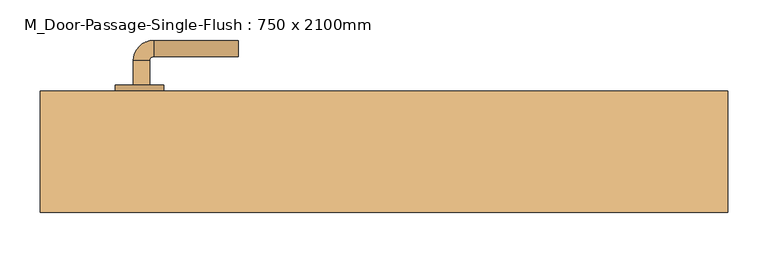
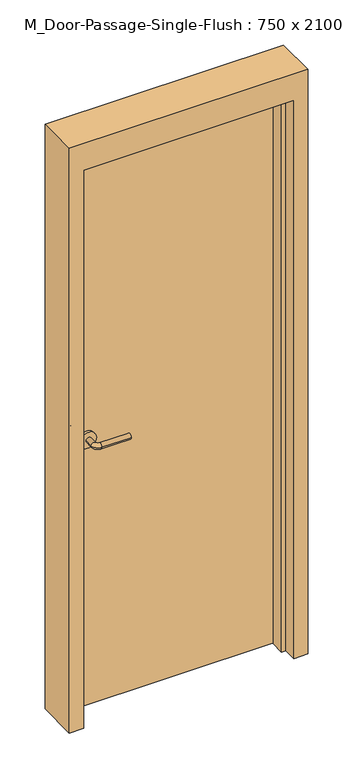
"""IFC4 building model written with IfcOpenShell, lengths in millimetres: door geometry, M_Door-Passage-Single-Flush : 750 x 2100mm."""

from ifc_helpers import new_model, si_unit, point, frame, frame_2d, origin, origin_with_axes, place, context, project, spatial, polyline, circle_curve, ellipse_curve, trimmed, segment, composite_curve, outline, extrude, faceted_brep, source, transform, mapped, element, save
from ifc_brep_helpers import plane_surface, cylinder_surface, revolved_surface, advanced_brep


def m_door_passage_single_flush_750_x_2100mm_cfc78163(model_context):
    return source(origin(), model_context, "Body", "SolidModel", [
        advanced_brep(
        [(-309.990625, -26.65, 1000.0), (-289.990625, -26.65, 1000.0), (-289.990625, -56.65, 1000.0), (-309.990625, -56.65, 1000.0), (-284.990625, -61.65, 1000.0), (-284.990625, -81.65, 1000.0), (-179.990625, -81.65, 1000.0), (-179.990625, -61.65, 1000.0)],
        [
            (0, 1, circle_curve(frame((-299.990625, -26.65, 1000.0), z_axis=(0.0, 1.0, 0.0), x_axis=(1.0, 0.0, 0.0)), 10.0)),
            (1, 0, circle_curve(frame((-299.990625, -26.65, 1000.0), z_axis=(0.0, 1.0, 0.0), x_axis=(1.0, 0.0, 0.0)), 10.0)),
            (1, 2),
            (2, 3, circle_curve(frame((-299.990625, -56.65, 1000.0), z_axis=(0.0, 1.0, 0.0), x_axis=(1.0, 0.0, 0.0)), 10.0)),
            (3, 0),
            (3, 2, circle_curve(frame((-299.990625, -56.65, 1000.0), z_axis=(0.0, 1.0, 0.0), x_axis=(1.0, 0.0, 0.0)), 10.0)),
            (4, 5, circle_curve(frame((-284.990625, -71.65, 1000.0), z_axis=(-1.0, 0.0, 0.0), x_axis=(0.0, 1.0, 0.0)), 10.0)),
            (5, 3, circle_curve(frame((-284.990625, -56.65, 1000.0), z_axis=(0.0, 0.0, -1.0), x_axis=(-1.0, 0.0, 0.0)), 25.0)),
            (2, 4, circle_curve(frame((-284.990625, -56.65, 1000.0), z_axis=(0.0, 0.0, 1.0), x_axis=(-1.0, 0.0, 0.0)), 5.0)),
            (5, 4, circle_curve(frame((-284.990625, -71.65, 1000.0), z_axis=(-1.0, 0.0, 0.0), x_axis=(0.0, 1.0, 0.0)), 10.0)),
            (6, 7, circle_curve(frame((-179.990625, -71.65, 1000.0), z_axis=(1.0, 0.0, 0.0), x_axis=(0.0, 1.0, 0.0)), 10.0)),
            (7, 6, circle_curve(frame((-179.990625, -71.65, 1000.0), z_axis=(1.0, 0.0, 0.0), x_axis=(0.0, 1.0, 0.0)), 10.0)),
            (4, 7),
            (6, 5),
        ],
        [
            plane_surface(frame((-299.990625, -26.65, 1000.0), z_axis=(0.0, 1.0, 0.0), x_axis=(0.0, 0.0, 1.0))),
            cylinder_surface(frame((-299.990625, -26.65, 1000.0), z_axis=(0.0, 1.0, 0.0), x_axis=(1.0, 0.0, 0.0)), 10.0),
            revolved_surface(trimmed(ellipse_curve(frame((-299.990625, -56.65, 1000.0), z_axis=(0.0, -1.0, 0.0), x_axis=(1.0, 0.0, 0.0)), 10.0, 10.0), [point((-309.990625, -56.65, 1000.0))], [point((-289.990625, -56.65, 1000.0))], True, "CARTESIAN"), (-284.990625, -56.65, 1000.0), (0.0, 0.0, -1.0)),
            revolved_surface(trimmed(ellipse_curve(frame((-299.990625, -56.65, 1000.0), z_axis=(0.0, -1.0, 0.0), x_axis=(1.0, 0.0, 0.0)), 10.0, 10.0), [point((-289.990625, -56.65, 1000.0))], [point((-309.990625, -56.65, 1000.0))], True, "CARTESIAN"), (-284.990625, -56.65, 1000.0), (0.0, 0.0, -1.0)),
            plane_surface(frame((-179.990625, -71.65, 1000.0), z_axis=(1.0, 0.0, 0.0), x_axis=(0.0, 0.0, 1.0))),
            cylinder_surface(frame((-284.990625, -71.65, 1000.0), z_axis=(-1.0, 0.0, 0.0), x_axis=(0.0, 1.0, 0.0)), 10.0),
        ],
        [
            (0, [[1, 2]]),
            (1, [[3, 4, 5, -2]]),
            (1, [[-5, 6, -3, -1]]),
            (2, [[7, 8, -4, 9]]),
            (3, [[10, -9, -6, -8]]),
            (4, [[11, 12]]),
            (5, [[13, -11, 14, -7]]),
            (5, [[-14, -12, -13, -10]]),
        ],
    ),
        extrude(outline(composite_curve([segment(trimmed(circle_curve(frame_2d((1000.0, -302.490625)), 30.0), [point((1000.0, -332.490625))], [point((1000.0, -272.490625))], False, "CARTESIAN"), True, "CONTINUOUS"), segment(trimmed(circle_curve(frame_2d((1000.0, -302.490625)), 30.0), [point((1000.0, -272.490625))], [point((1000.0, -332.490625))], False, "CARTESIAN"), True, "CONTINUOUS")], self_intersect=False)), frame((0.0, -26.65, 0.0), z_axis=(0.0, 1.0, 0.0), x_axis=(0.0, 0.0, 1.0)), (0.0, 0.0, 1.0), 8.0),
        advanced_brep(
        [(-309.990625, 34.35, 1000.0), (-289.990625, 34.35, 1000.0), (-309.990625, 64.35, 1000.0), (-289.990625, 64.35, 1000.0), (-284.990625, 69.35, 1000.0), (-284.990625, 89.35, 1000.0), (-179.990625, 89.35, 1000.0), (-179.990625, 69.35, 1000.0)],
        [
            (0, 1, circle_curve(frame((-299.990625, 34.35, 1000.0), z_axis=(0.0, -1.0, 0.0), x_axis=(1.0, 0.0, 0.0)), 10.0)),
            (1, 0, circle_curve(frame((-299.990625, 34.35, 1000.0), z_axis=(0.0, -1.0, 0.0), x_axis=(1.0, 0.0, 0.0)), 10.0)),
            (0, 2),
            (2, 3, circle_curve(frame((-299.990625, 64.35, 1000.0), z_axis=(0.0, -1.0, 0.0), x_axis=(1.0, 0.0, 0.0)), 10.0)),
            (3, 1),
            (3, 2, circle_curve(frame((-299.990625, 64.35, 1000.0), z_axis=(0.0, -1.0, 0.0), x_axis=(1.0, 0.0, 0.0)), 10.0)),
            (4, 3, circle_curve(frame((-284.990625, 64.35, 1000.0), z_axis=(0.0, 0.0, 1.0), x_axis=(-1.0, 0.0, 0.0)), 5.0)),
            (2, 5, circle_curve(frame((-284.990625, 64.35, 1000.0), z_axis=(0.0, 0.0, -1.0), x_axis=(-1.0, 0.0, 0.0)), 25.0)),
            (5, 4, circle_curve(frame((-284.990625, 79.35, 1000.0), z_axis=(-1.0, 0.0, 0.0), x_axis=(0.0, -1.0, 0.0)), 10.0)),
            (4, 5, circle_curve(frame((-284.990625, 79.35, 1000.0), z_axis=(-1.0, 0.0, 0.0), x_axis=(0.0, -1.0, 0.0)), 10.0)),
            (6, 7, circle_curve(frame((-179.990625, 79.35, 1000.0), z_axis=(1.0, 0.0, 0.0), x_axis=(0.0, -1.0, 0.0)), 10.0)),
            (7, 6, circle_curve(frame((-179.990625, 79.35, 1000.0), z_axis=(1.0, 0.0, 0.0), x_axis=(0.0, -1.0, 0.0)), 10.0)),
            (5, 6),
            (7, 4),
        ],
        [
            plane_surface(frame((-299.990625, 34.35, 1000.0), z_axis=(0.0, -1.0, 0.0), x_axis=(0.0, 0.0, 1.0))),
            cylinder_surface(frame((-299.990625, 34.35, 1000.0), z_axis=(0.0, -1.0, 0.0), x_axis=(1.0, 0.0, 0.0)), 10.0),
            revolved_surface(trimmed(ellipse_curve(frame((-299.990625, 64.35, 1000.0), z_axis=(0.0, -1.0, 0.0), x_axis=(1.0, 0.0, 0.0)), 10.0, 10.0), [point((-309.990625, 64.35, 1000.0))], [point((-289.990625, 64.35, 1000.0))], True, "CARTESIAN"), (-284.990625, 64.35, 1000.0), (0.0, 0.0, -1.0)),
            revolved_surface(trimmed(ellipse_curve(frame((-299.990625, 64.35, 1000.0), z_axis=(0.0, -1.0, 0.0), x_axis=(1.0, 0.0, 0.0)), 10.0, 10.0), [point((-289.990625, 64.35, 1000.0))], [point((-309.990625, 64.35, 1000.0))], True, "CARTESIAN"), (-284.990625, 64.35, 1000.0), (0.0, 0.0, -1.0)),
            plane_surface(frame((-179.990625, 79.35, 1000.0), z_axis=(1.0, 0.0, 0.0), x_axis=(0.0, 0.0, 1.0))),
            cylinder_surface(frame((-284.990625, 79.35, 1000.0), z_axis=(-1.0, 0.0, 0.0), x_axis=(0.0, -1.0, 0.0)), 10.0),
        ],
        [
            (0, [[1, 2]]),
            (1, [[-1, 3, 4, 5]]),
            (1, [[-2, -5, 6, -3]]),
            (2, [[7, -4, 8, 9]]),
            (3, [[-8, -6, -7, 10]]),
            (4, [[11, 12]]),
            (5, [[-9, 13, -12, 14]]),
            (5, [[-10, -14, -11, -13]]),
        ],
    ),
        extrude(outline(composite_curve([segment(trimmed(circle_curve(frame_2d((1000.0, -302.490625)), 30.0), [point((1000.0, -332.490625))], [point((1000.0, -272.490625))], False, "CARTESIAN"), True, "CONTINUOUS"), segment(trimmed(circle_curve(frame_2d((1000.0, -302.490625)), 30.0), [point((1000.0, -272.490625))], [point((1000.0, -332.490625))], False, "CARTESIAN"), True, "CONTINUOUS")], self_intersect=False)), frame((0.0, 26.35, 0.0), z_axis=(0.0, 1.0, 0.0), x_axis=(0.0, 0.0, 1.0)), (0.0, 0.0, 1.0), 8.0),
        faceted_brep([(375.0, -23.4125, 0.0), (375.0, 26.35, 0.0), (425.0, 26.35, 0.0), (425.0, -123.65, 0.0), (375.0, -123.65, 0.0), (375.0, -74.4375, 0.0), (359.125, -74.4375, 0.0), (359.125, -23.4125, 0.0), (375.0, -23.4125, 2100.0), (375.0, 26.35, 2100.0), (-375.0, 26.35, 2100.0), (-375.0, 26.35, 0.0), (-425.0, 26.35, 0.0), (-425.0, 26.35, 2200.0), (425.0, 26.35, 2200.0), (425.0, -123.65, 2200.0), (-425.0, -123.65, 2200.0), (-425.0, -123.65, 0.0), (-375.0, -123.65, 0.0), (-375.0, -123.65, 2100.0), (375.0, -123.65, 2100.0), (375.0, -74.4375, 2100.0), (-375.0, -74.4375, 2100.0), (-375.0, -74.4375, 0.0), (-359.125, -74.4375, 0.0), (-359.125, -74.4375, 2084.125), (359.125, -74.4375, 2084.125), (359.125, -23.4125, 2084.125), (-359.125, -23.4125, 2084.125), (-359.125, -23.4125, 0.0), (-375.0, -23.4125, 0.0), (-375.0, -23.4125, 2100.0)], [[[0, 1, 2, 3, 4, 5, 6, 7]], [[1, 0, 8, 9]], [[2, 1, 9, 10, 11, 12, 13, 14]], [[3, 2, 14, 15]], [[4, 3, 15, 16, 17, 18, 19, 20]], [[5, 4, 20, 21]], [[6, 5, 21, 22, 23, 24, 25, 26]], [[7, 6, 26, 27]], [[0, 7, 27, 28, 29, 30, 31, 8]], [[9, 8, 31, 10]], [[20, 19, 22, 21]], [[26, 25, 28, 27]], [[12, 11, 30, 29, 24, 23, 18, 17]], [[11, 10, 31, 30]], [[13, 12, 17, 16]], [[19, 18, 23, 22]], [[25, 24, 29, 28]], [[15, 14, 13, 16]]]),
        extrude(outline(polyline([(375.0, -18.65), (-375.0, -18.65), (-375.0, 26.35), (375.0, 26.35), (375.0, -18.65)])), origin_with_axes(), (0.0, 0.0, 1.0), 2100.0),
    ])


if __name__ == "__main__":
    model = new_model("IFC4")
    model_context = context("Model", 3, world=origin())
    ifc_project = project(units=[si_unit("LENGTHUNIT", "METRE", prefix="MILLI")], contexts=[model_context])
    site = spatial("IfcSite", under=ifc_project)
    building = spatial("IfcBuilding", under=site)
    placement = place(None, origin())
    m_door_passage_single_flush_750_x_2100mm_shape = m_door_passage_single_flush_750_x_2100mm_cfc78163(model_context)
    element("IfcDoor", 1, ObjectType="M_Door-Passage-Single-Flush : 750 x 2100mm", at=placement, inside=building, context=model_context, shape_type="MappedRepresentation", body=[
        mapped(m_door_passage_single_flush_750_x_2100mm_shape, transform((0.0, 0.0, 0.0), x_axis=(1.0, 0.0, 0.0), y_axis=(0.0, 1.0, 0.0), z_axis=(0.0, 0.0, 1.0))),
    ])
    save(model, "model.ifc")
